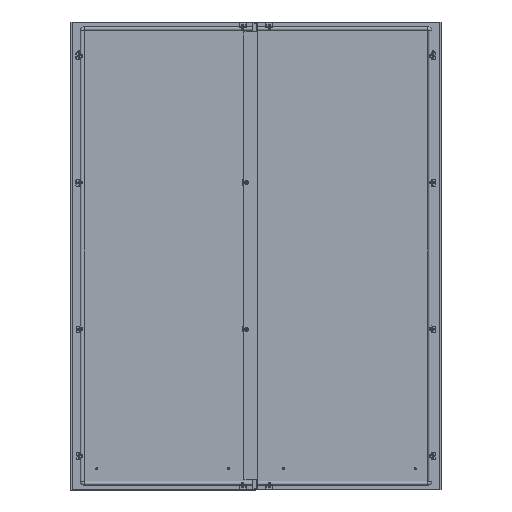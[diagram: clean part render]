
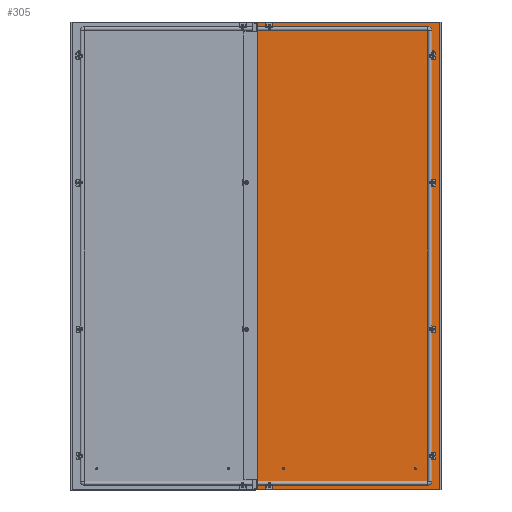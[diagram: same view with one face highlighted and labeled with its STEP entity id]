
A CAD part, top view. The second image highlights one B-rep face of the part: STEP entity #305.
In plain terms, the highlighted planar face has unit normal (0, 0, 1) as drawn and (0, 0, -1) by its records, which use the part's own axes.
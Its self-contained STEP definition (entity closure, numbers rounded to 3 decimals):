
#305 = ADVANCED_FACE('',(#306,#317,#328,#339,#350,#361,#372),#470,.T.);
#306 = FACE_BOUND('',#307,.T.);
#307 = EDGE_LOOP('',(#308));
#308 = ORIENTED_EDGE('',*,*,#309,.T.);
#309 = EDGE_CURVE('',#310,#310,#312,.T.);
#310 = VERTEX_POINT('',#311);
#311 = CARTESIAN_POINT('',(319.25,-750.,-1.5));
#312 = CIRCLE('',#313,4.75);
#313 = AXIS2_PLACEMENT_3D('',#314,#315,#316);
#314 = CARTESIAN_POINT('',(314.5,-750.,-1.5));
#315 = DIRECTION('',(0.,0.,1.));
#316 = DIRECTION('',(1.,0.,-0.));
#317 = FACE_BOUND('',#318,.T.);
#318 = EDGE_LOOP('',(#319));
#319 = ORIENTED_EDGE('',*,*,#320,.T.);
#320 = EDGE_CURVE('',#321,#321,#323,.T.);
#321 = VERTEX_POINT('',#322);
#322 = CARTESIAN_POINT('',(319.25,-275.,-1.5));
#323 = CIRCLE('',#324,4.75);
#324 = AXIS2_PLACEMENT_3D('',#325,#326,#327);
#325 = CARTESIAN_POINT('',(314.5,-275.,-1.5));
#326 = DIRECTION('',(0.,0.,1.));
#327 = DIRECTION('',(1.,0.,-0.));
#328 = FACE_BOUND('',#329,.T.);
#329 = EDGE_LOOP('',(#330));
#330 = ORIENTED_EDGE('',*,*,#331,.F.);
#331 = EDGE_CURVE('',#332,#332,#334,.T.);
#332 = VERTEX_POINT('',#333);
#333 = CARTESIAN_POINT('',(319.25,750.,-1.5));
#334 = CIRCLE('',#335,4.75);
#335 = AXIS2_PLACEMENT_3D('',#336,#337,#338);
#336 = CARTESIAN_POINT('',(314.5,750.,-1.5));
#337 = DIRECTION('',(0.,0.,-1.));
#338 = DIRECTION('',(1.,0.,0.));
#339 = FACE_BOUND('',#340,.T.);
#340 = EDGE_LOOP('',(#341));
#341 = ORIENTED_EDGE('',*,*,#342,.F.);
#342 = EDGE_CURVE('',#343,#343,#345,.T.);
#343 = VERTEX_POINT('',#344);
#344 = CARTESIAN_POINT('',(319.25,275.,-1.5));
#345 = CIRCLE('',#346,4.75);
#346 = AXIS2_PLACEMENT_3D('',#347,#348,#349);
#347 = CARTESIAN_POINT('',(314.5,275.,-1.5));
#348 = DIRECTION('',(0.,0.,-1.));
#349 = DIRECTION('',(1.,0.,0.));
#350 = FACE_BOUND('',#351,.T.);
#351 = EDGE_LOOP('',(#352));
#352 = ORIENTED_EDGE('',*,*,#353,.T.);
#353 = EDGE_CURVE('',#354,#354,#356,.T.);
#354 = VERTEX_POINT('',#355);
#355 = CARTESIAN_POINT('',(-304.75,864.5,-1.5));
#356 = CIRCLE('',#357,4.75);
#357 = AXIS2_PLACEMENT_3D('',#358,#359,#360);
#358 = CARTESIAN_POINT('',(-300.,864.5,-1.5));
#359 = DIRECTION('',(0.,0.,1.));
#360 = DIRECTION('',(-1.,0.,0.));
#361 = FACE_BOUND('',#362,.T.);
#362 = EDGE_LOOP('',(#363));
#363 = ORIENTED_EDGE('',*,*,#364,.T.);
#364 = EDGE_CURVE('',#365,#365,#367,.T.);
#365 = VERTEX_POINT('',#366);
#366 = CARTESIAN_POINT('',(-295.25,-864.5,-1.5));
#367 = CIRCLE('',#368,4.75);
#368 = AXIS2_PLACEMENT_3D('',#369,#370,#371);
#369 = CARTESIAN_POINT('',(-300.,-864.5,-1.5));
#370 = DIRECTION('',(0.,0.,1.));
#371 = DIRECTION('',(1.,0.,-0.));
#372 = FACE_BOUND('',#373,.T.);
#373 = EDGE_LOOP('',(#374,#384,#392,#400,#408,#416,#424,#432,#440,#448,
    #456,#464));
#374 = ORIENTED_EDGE('',*,*,#375,.F.);
#375 = EDGE_CURVE('',#376,#378,#380,.T.);
#376 = VERTEX_POINT('',#377);
#377 = CARTESIAN_POINT('',(-345.3,-876.,-1.5));
#378 = VERTEX_POINT('',#379);
#379 = CARTESIAN_POINT('',(345.3,-876.,-1.5));
#380 = LINE('',#381,#382);
#381 = CARTESIAN_POINT('',(0.,-876.,-1.5));
#382 = VECTOR('',#383,1.);
#383 = DIRECTION('',(1.,0.,0.));
#384 = ORIENTED_EDGE('',*,*,#385,.F.);
#385 = EDGE_CURVE('',#386,#376,#388,.T.);
#386 = VERTEX_POINT('',#387);
#387 = CARTESIAN_POINT('',(-345.3,-877.5,-1.5));
#388 = LINE('',#389,#390);
#389 = CARTESIAN_POINT('',(-345.3,0.,-1.5));
#390 = VECTOR('',#391,1.);
#391 = DIRECTION('',(0.,1.,0.));
#392 = ORIENTED_EDGE('',*,*,#393,.F.);
#393 = EDGE_CURVE('',#394,#386,#396,.T.);
#394 = VERTEX_POINT('',#395);
#395 = CARTESIAN_POINT('',(-345.5,-877.5,-1.5));
#396 = LINE('',#397,#398);
#397 = CARTESIAN_POINT('',(0.,-877.5,-1.5));
#398 = VECTOR('',#399,1.);
#399 = DIRECTION('',(1.,0.,0.));
#400 = ORIENTED_EDGE('',*,*,#401,.T.);
#401 = EDGE_CURVE('',#394,#402,#404,.T.);
#402 = VERTEX_POINT('',#403);
#403 = CARTESIAN_POINT('',(-345.5,877.5,-1.5));
#404 = LINE('',#405,#406);
#405 = CARTESIAN_POINT('',(-345.5,0.,-1.5));
#406 = VECTOR('',#407,1.);
#407 = DIRECTION('',(0.,1.,0.));
#408 = ORIENTED_EDGE('',*,*,#409,.F.);
#409 = EDGE_CURVE('',#410,#402,#412,.T.);
#410 = VERTEX_POINT('',#411);
#411 = CARTESIAN_POINT('',(-345.3,877.5,-1.5));
#412 = LINE('',#413,#414);
#413 = CARTESIAN_POINT('',(0.,877.5,-1.5));
#414 = VECTOR('',#415,1.);
#415 = DIRECTION('',(-1.,0.,0.));
#416 = ORIENTED_EDGE('',*,*,#417,.T.);
#417 = EDGE_CURVE('',#410,#418,#420,.T.);
#418 = VERTEX_POINT('',#419);
#419 = CARTESIAN_POINT('',(-345.3,876.,-1.5));
#420 = LINE('',#421,#422);
#421 = CARTESIAN_POINT('',(-345.3,0.,-1.5));
#422 = VECTOR('',#423,1.);
#423 = DIRECTION('',(0.,-1.,0.));
#424 = ORIENTED_EDGE('',*,*,#425,.F.);
#425 = EDGE_CURVE('',#426,#418,#428,.T.);
#426 = VERTEX_POINT('',#427);
#427 = CARTESIAN_POINT('',(345.3,876.,-1.5));
#428 = LINE('',#429,#430);
#429 = CARTESIAN_POINT('',(0.,876.,-1.5));
#430 = VECTOR('',#431,1.);
#431 = DIRECTION('',(-1.,0.,0.));
#432 = ORIENTED_EDGE('',*,*,#433,.F.);
#433 = EDGE_CURVE('',#434,#426,#436,.T.);
#434 = VERTEX_POINT('',#435);
#435 = CARTESIAN_POINT('',(345.3,877.5,-1.5));
#436 = LINE('',#437,#438);
#437 = CARTESIAN_POINT('',(345.3,0.,
    -1.5));
#438 = VECTOR('',#439,1.);
#439 = DIRECTION('',(0.,-1.,0.));
#440 = ORIENTED_EDGE('',*,*,#441,.F.);
#441 = EDGE_CURVE('',#442,#434,#444,.T.);
#442 = VERTEX_POINT('',#443);
#443 = CARTESIAN_POINT('',(345.5,877.5,-1.5));
#444 = LINE('',#445,#446);
#445 = CARTESIAN_POINT('',(0.,877.5,-1.5));
#446 = VECTOR('',#447,1.);
#447 = DIRECTION('',(-1.,0.,0.));
#448 = ORIENTED_EDGE('',*,*,#449,.T.);
#449 = EDGE_CURVE('',#442,#450,#452,.T.);
#450 = VERTEX_POINT('',#451);
#451 = CARTESIAN_POINT('',(345.5,-877.5,-1.5));
#452 = LINE('',#453,#454);
#453 = CARTESIAN_POINT('',(345.5,0.,
    -1.5));
#454 = VECTOR('',#455,1.);
#455 = DIRECTION('',(0.,-1.,0.));
#456 = ORIENTED_EDGE('',*,*,#457,.F.);
#457 = EDGE_CURVE('',#458,#450,#460,.T.);
#458 = VERTEX_POINT('',#459);
#459 = CARTESIAN_POINT('',(345.3,-877.5,-1.5));
#460 = LINE('',#461,#462);
#461 = CARTESIAN_POINT('',(0.,-877.5,-1.5));
#462 = VECTOR('',#463,1.);
#463 = DIRECTION('',(1.,0.,0.));
#464 = ORIENTED_EDGE('',*,*,#465,.T.);
#465 = EDGE_CURVE('',#458,#378,#466,.T.);
#466 = LINE('',#467,#468);
#467 = CARTESIAN_POINT('',(345.3,0.,
    -1.5));
#468 = VECTOR('',#469,1.);
#469 = DIRECTION('',(0.,1.,0.));
#470 = PLANE('',#471);
#471 = AXIS2_PLACEMENT_3D('',#472,#473,#474);
#472 = CARTESIAN_POINT('',(0.,0.,
    -1.5));
#473 = DIRECTION('',(0.,0.,-1.));
#474 = DIRECTION('',(-1.,0.,0.));
